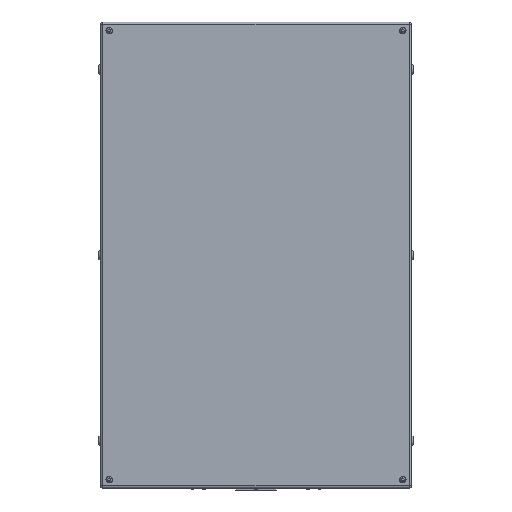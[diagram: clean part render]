
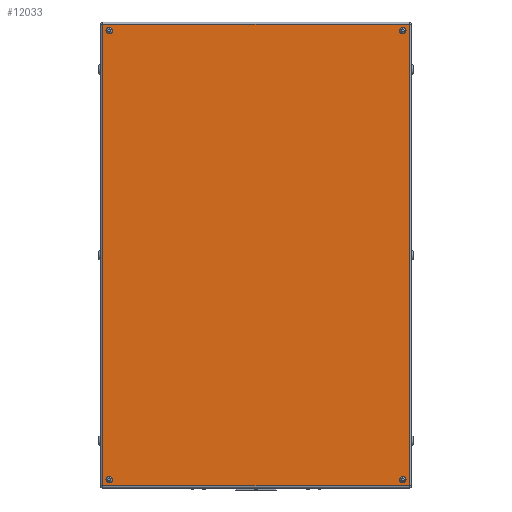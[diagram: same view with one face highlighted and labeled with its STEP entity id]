
A CAD part, front view. The second image highlights one B-rep face of the part: STEP entity #12033.
In plain terms, the highlighted planar face has unit normal (0, -1, 0).
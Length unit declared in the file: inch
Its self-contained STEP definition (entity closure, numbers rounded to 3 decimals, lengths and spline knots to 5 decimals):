
#49 = EDGE_CURVE ( 'NONE', #10869, #15733, #12233, .T. ) ;
#150 = PLANE ( 'NONE',  #159 ) ;
#157 = AXIS2_PLACEMENT_3D ( 'NONE', #16446, #9087, #16363 ) ;
#159 = AXIS2_PLACEMENT_3D ( 'NONE', #1407, #4172, #9080 ) ;
#393 = DIRECTION ( 'NONE',  ( 0., 0., 1. ) ) ;
#474 = EDGE_LOOP ( 'NONE', ( #9300, #3479 ) ) ;
#491 = CIRCLE ( 'NONE', #2617, 0.37402 ) ;
#749 = AXIS2_PLACEMENT_3D ( 'NONE', #8407, #14930, #11188 ) ;
#1393 = DIRECTION ( 'NONE',  ( 1., 0., 0. ) ) ;
#1407 = CARTESIAN_POINT ( 'NONE',  ( 0., -11., 0. ) ) ;
#1515 = VECTOR ( 'NONE', #10566, 39.37008 ) ;
#1845 = ORIENTED_EDGE ( 'NONE', *, *, #4109, .F. ) ;
#1921 = DIRECTION ( 'NONE',  ( 0., 0., 1. ) ) ;
#1942 = VERTEX_POINT ( 'NONE', #9564 ) ;
#2091 = CIRCLE ( 'NONE', #11398, 0.37402 ) ;
#2310 = EDGE_CURVE ( 'NONE', #1942, #4710, #14817, .T. ) ;
#2320 = CIRCLE ( 'NONE', #15350, 0.37402 ) ;
#2583 = CARTESIAN_POINT ( 'NONE',  ( -17., -11., -26.37402 ) ) ;
#2617 = AXIS2_PLACEMENT_3D ( 'NONE', #4322, #9379, #12027 ) ;
#2815 = VERTEX_POINT ( 'NONE', #9542 ) ;
#2827 = EDGE_CURVE ( 'NONE', #2953, #8218, #491, .T. ) ;
#2953 = VERTEX_POINT ( 'NONE', #5994 ) ;
#2972 = FACE_BOUND ( 'NONE', #9056, .T. ) ;
#2998 = CARTESIAN_POINT ( 'NONE',  ( 17.734, -11., 26.734 ) ) ;
#3112 = CARTESIAN_POINT ( 'NONE',  ( -17., -11., -26. ) ) ;
#3479 = ORIENTED_EDGE ( 'NONE', *, *, #2310, .F. ) ;
#3564 = CIRCLE ( 'NONE', #12859, 0.37402 ) ;
#3650 = DIRECTION ( 'NONE',  ( 0., -1., 0. ) ) ;
#3741 = EDGE_LOOP ( 'NONE', ( #4051, #10284, #15669, #15902 ) ) ;
#3902 = LINE ( 'NONE', #5166, #8184 ) ;
#4051 = ORIENTED_EDGE ( 'NONE', *, *, #13518, .T. ) ;
#4109 = EDGE_CURVE ( 'NONE', #16273, #5759, #3564, .T. ) ;
#4140 = DIRECTION ( 'NONE',  ( 0., 0., -1. ) ) ;
#4172 = DIRECTION ( 'NONE',  ( 0., -1., 0. ) ) ;
#4322 = CARTESIAN_POINT ( 'NONE',  ( -17., -11., 26. ) ) ;
#4710 = VERTEX_POINT ( 'NONE', #6332 ) ;
#4744 = CARTESIAN_POINT ( 'NONE',  ( -17.734, -11., -26.734 ) ) ;
#5166 = CARTESIAN_POINT ( 'NONE',  ( 17.734, -11., -26.734 ) ) ;
#5249 = EDGE_CURVE ( 'NONE', #15733, #10869, #2091, .T. ) ;
#5392 = AXIS2_PLACEMENT_3D ( 'NONE', #16173, #3650, #7408 ) ;
#5686 = CARTESIAN_POINT ( 'NONE',  ( -17., -11., -25.62598 ) ) ;
#5759 = VERTEX_POINT ( 'NONE', #2583 ) ;
#5781 = CIRCLE ( 'NONE', #157, 0.37402 ) ;
#5906 = EDGE_CURVE ( 'NONE', #8218, #2953, #5781, .T. ) ;
#5994 = CARTESIAN_POINT ( 'NONE',  ( -17., -11., 26.37402 ) ) ;
#6332 = CARTESIAN_POINT ( 'NONE',  ( 17., -11., -25.62598 ) ) ;
#6562 = EDGE_LOOP ( 'NONE', ( #12831, #15466 ) ) ;
#6593 = DIRECTION ( 'NONE',  ( 0., -1., 0. ) ) ;
#7137 = VERTEX_POINT ( 'NONE', #4744 ) ;
#7408 = DIRECTION ( 'NONE',  ( 0., 0., 1. ) ) ;
#7890 = DIRECTION ( 'NONE',  ( 0., -1., 0. ) ) ;
#7947 = LINE ( 'NONE', #2998, #1515 ) ;
#8011 = LINE ( 'NONE', #8091, #11463 ) ;
#8091 = CARTESIAN_POINT ( 'NONE',  ( -17.734, -11., -26.734 ) ) ;
#8184 = VECTOR ( 'NONE', #1393, 39.37008 ) ;
#8218 = VERTEX_POINT ( 'NONE', #9147 ) ;
#8407 = CARTESIAN_POINT ( 'NONE',  ( 17., -11., -26. ) ) ;
#8632 = DIRECTION ( 'NONE',  ( 0., -1., 0. ) ) ;
#8683 = FACE_BOUND ( 'NONE', #474, .T. ) ;
#9056 = EDGE_LOOP ( 'NONE', ( #10156, #10427 ) ) ;
#9063 = ORIENTED_EDGE ( 'NONE', *, *, #13875, .F. ) ;
#9080 = DIRECTION ( 'NONE',  ( 0., 0., -1. ) ) ;
#9086 = CARTESIAN_POINT ( 'NONE',  ( 17., -11., 26. ) ) ;
#9087 = DIRECTION ( 'NONE',  ( 0., -1., 0. ) ) ;
#9147 = CARTESIAN_POINT ( 'NONE',  ( -17., -11., 25.62598 ) ) ;
#9166 = EDGE_CURVE ( 'NONE', #2815, #7137, #8011, .T. ) ;
#9281 = EDGE_CURVE ( 'NONE', #4710, #1942, #12541, .T. ) ;
#9300 = ORIENTED_EDGE ( 'NONE', *, *, #9281, .F. ) ;
#9379 = DIRECTION ( 'NONE',  ( 0., -1., 0. ) ) ;
#9542 = CARTESIAN_POINT ( 'NONE',  ( -17.734, -11., 26.734 ) ) ;
#9564 = CARTESIAN_POINT ( 'NONE',  ( 17., -11., -26.37402 ) ) ;
#9766 = DIRECTION ( 'NONE',  ( 0., 0., -1. ) ) ;
#10125 = CARTESIAN_POINT ( 'NONE',  ( 17.734, -11., 26.734 ) ) ;
#10156 = ORIENTED_EDGE ( 'NONE', *, *, #2827, .F. ) ;
#10227 = DIRECTION ( 'NONE',  ( 0., 0., -1. ) ) ;
#10284 = ORIENTED_EDGE ( 'NONE', *, *, #15164, .T. ) ;
#10427 = ORIENTED_EDGE ( 'NONE', *, *, #5906, .F. ) ;
#10566 = DIRECTION ( 'NONE',  ( 0., 0., 1. ) ) ;
#10739 = CARTESIAN_POINT ( 'NONE',  ( 17., -11., 26. ) ) ;
#10869 = VERTEX_POINT ( 'NONE', #11999 ) ;
#11188 = DIRECTION ( 'NONE',  ( 0., 0., 1. ) ) ;
#11398 = AXIS2_PLACEMENT_3D ( 'NONE', #9086, #6593, #393 ) ;
#11463 = VECTOR ( 'NONE', #10227, 39.37008 ) ;
#11727 = FACE_BOUND ( 'NONE', #15759, .T. ) ;
#11999 = CARTESIAN_POINT ( 'NONE',  ( 17., -11., 26.37402 ) ) ;
#12027 = DIRECTION ( 'NONE',  ( 0., 0., -1. ) ) ;
#12033 = ADVANCED_FACE ( 'NONE', ( #14959, #8683, #2972, #11727, #12813 ), #150, .T. ) ;
#12233 = CIRCLE ( 'NONE', #13293, 0.37402 ) ;
#12254 = VERTEX_POINT ( 'NONE', #10125 ) ;
#12402 = EDGE_CURVE ( 'NONE', #7137, #15696, #3902, .T. ) ;
#12541 = CIRCLE ( 'NONE', #5392, 0.37402 ) ;
#12813 = FACE_OUTER_BOUND ( 'NONE', #3741, .T. ) ;
#12831 = ORIENTED_EDGE ( 'NONE', *, *, #49, .F. ) ;
#12859 = AXIS2_PLACEMENT_3D ( 'NONE', #13670, #8632, #9766 ) ;
#12986 = CARTESIAN_POINT ( 'NONE',  ( -17.734, -11., 26.734 ) ) ;
#13027 = VECTOR ( 'NONE', #14471, 39.37008 ) ;
#13293 = AXIS2_PLACEMENT_3D ( 'NONE', #10739, #13318, #1921 ) ;
#13318 = DIRECTION ( 'NONE',  ( 0., -1., 0. ) ) ;
#13518 = EDGE_CURVE ( 'NONE', #15696, #12254, #7947, .T. ) ;
#13670 = CARTESIAN_POINT ( 'NONE',  ( -17., -11., -26. ) ) ;
#13873 = CARTESIAN_POINT ( 'NONE',  ( 17.734, -11., -26.734 ) ) ;
#13875 = EDGE_CURVE ( 'NONE', #5759, #16273, #2320, .T. ) ;
#14471 = DIRECTION ( 'NONE',  ( -1., 0., 0. ) ) ;
#14817 = CIRCLE ( 'NONE', #749, 0.37402 ) ;
#14930 = DIRECTION ( 'NONE',  ( 0., -1., 0. ) ) ;
#14959 = FACE_BOUND ( 'NONE', #6562, .T. ) ;
#15164 = EDGE_CURVE ( 'NONE', #12254, #2815, #15398, .T. ) ;
#15350 = AXIS2_PLACEMENT_3D ( 'NONE', #3112, #7890, #4140 ) ;
#15398 = LINE ( 'NONE', #12986, #13027 ) ;
#15466 = ORIENTED_EDGE ( 'NONE', *, *, #5249, .F. ) ;
#15669 = ORIENTED_EDGE ( 'NONE', *, *, #9166, .T. ) ;
#15696 = VERTEX_POINT ( 'NONE', #13873 ) ;
#15733 = VERTEX_POINT ( 'NONE', #16260 ) ;
#15759 = EDGE_LOOP ( 'NONE', ( #1845, #9063 ) ) ;
#15902 = ORIENTED_EDGE ( 'NONE', *, *, #12402, .T. ) ;
#16173 = CARTESIAN_POINT ( 'NONE',  ( 17., -11., -26. ) ) ;
#16260 = CARTESIAN_POINT ( 'NONE',  ( 17., -11., 25.62598 ) ) ;
#16273 = VERTEX_POINT ( 'NONE', #5686 ) ;
#16363 = DIRECTION ( 'NONE',  ( 0., 0., -1. ) ) ;
#16446 = CARTESIAN_POINT ( 'NONE',  ( -17., -11., 26. ) ) ;
